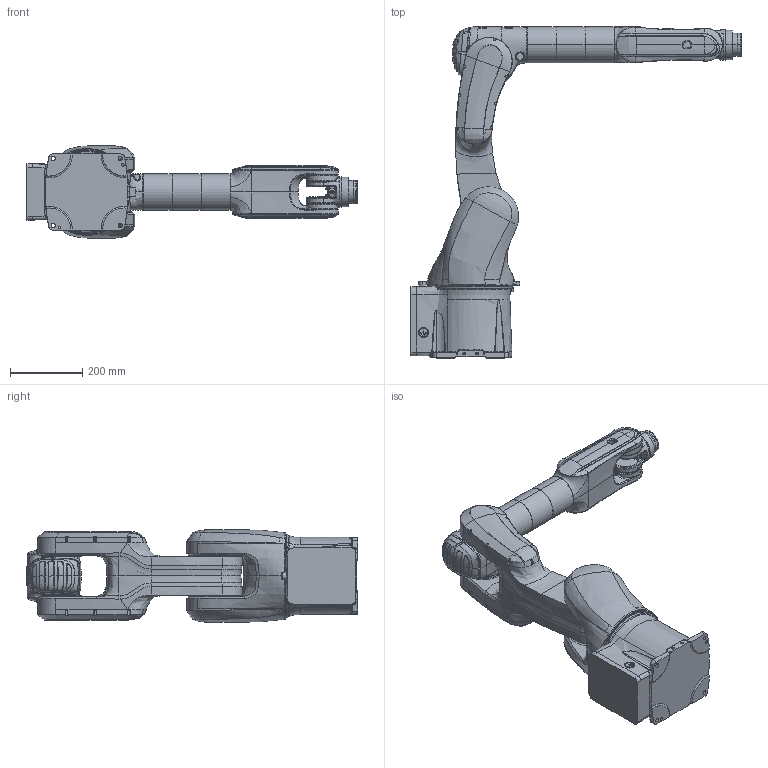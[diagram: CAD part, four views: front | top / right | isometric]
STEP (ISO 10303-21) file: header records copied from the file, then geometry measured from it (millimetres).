
FILE_DESCRIPTION (( 'STEP AP214' ), '1' );
FILE_NAME ('MB08S-1080 Íâ·¢Ä£ÐÍ2020°æ¿É¶¯.STEP', '2026-05-20T02:55:58', ( '' ), ( '' ), 'SwSTEP 2.0', 'SolidWorks 2020', '' );
FILE_SCHEMA (( 'AUTOMOTIVE_DESIGN' ));
Length unit declared in the file: millimetre
Products named in the file (9): 樓酗誹; J3; J2; MB08S-1080 俋楷耀倰2020唳褫雄; J6楊擘; J5; J6; J4; J1
Assembly tree (9 placements, depth 2):
  MB08S-1080 俋楷耀倰2020唳褫雄
    J1
    J2
    J3
    J4
    樓酗誹  x2
    J5
    J6
    J6楊擘
Bounding box: 912 x 917 x 256.55 mm (x, y, z)
Volume: 33368963.8 mm3; surface area: 1363166 mm2
Topology: 9 solids, 24 shells, 2683 faces, 6509 edges, 3847 vertices
Faces by surface type: bspline 1331, cylinder 640, plane 479, cone 229, sphere 2, torus 2
Entity records: 346000 total; most frequent: CARTESIAN_POINT 281936, ORIENTED_EDGE 12648, DIRECTION 7805, EDGE_CURVE 6324, VERTEX_POINT 3833, AXIS2_PLACEMENT_3D 3084, EDGE_LOOP 2883, B_SPLINE_CURVE_WITH_KNOTS 2779
